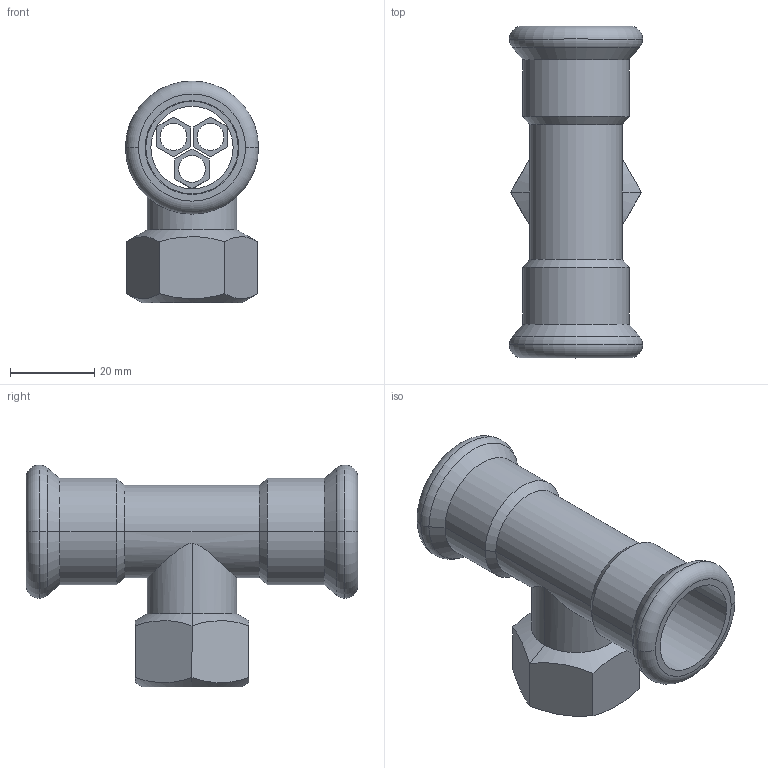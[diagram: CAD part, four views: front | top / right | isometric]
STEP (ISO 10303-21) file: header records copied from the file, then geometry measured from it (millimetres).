
FILE_DESCRIPTION(('OneSpaceDesigner STEP Export'),'2;1');
FILE_NAME('R2718 22xRp1-2x22.stp','2010-06-10T10:00:05',(''),(''),'OneSpace Designer STEP processor for AP214 (Solid Model)','OneSpace Modeling 15.00A 14-Mar-2007 (C) CoCreate Software GmbH','');
FILE_SCHEMA(('AUTOMOTIVE_DESIGN { 1 0 10303 214 1 1 1 1 }'));
Length unit declared in the file: millimetre
Products named in the file (2): R2718_22xRp1-2x22
Assembly tree (1 placements, depth 2):
  R2718_22xRp1-2x22
    R2718_22xRp1-2x22
Bounding box: 31.7 x 79 x 52.85 mm (x, y, z)
Volume: 17900.4 mm3; surface area: 18206.5 mm2
Topology: 1 solids, 1 shells, 177 faces, 446 edges, 285 vertices
Faces by surface type: plane 93, cylinder 56, cone 20, torus 8
Entity records: 7025 total; most frequent: CARTESIAN_POINT 3035, ORIENTED_EDGE 892, DIRECTION 707, EDGE_CURVE 446, VERTEX_POINT 285, VECTOR 279, LINE 279, AXIS2_PLACEMENT_3D 214
